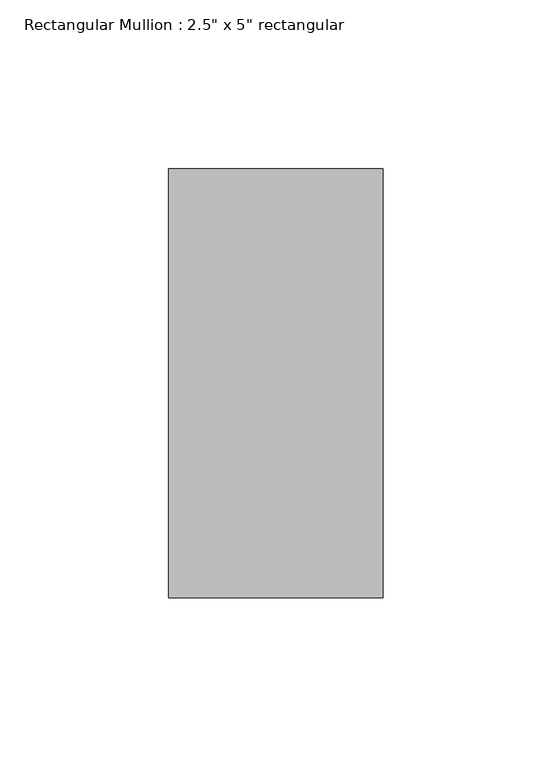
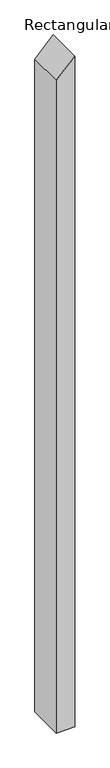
"""IFC4 building model written with IfcOpenShell, lengths in millimetres: member geometry."""

from ifc_helpers import new_model, si_unit, frame, origin, place, context, project, spatial, polyline, outline, extrude, source, transform, mapped, element, save


def member_9536ee80(model_context):
    return source(origin(), model_context, "Body", "SweptSolid", [
        extrude(outline(polyline([(0.0, 0.0), (-66.2000491, -63.5), (-2440.5143955, -63.5), (-2440.5143955, 0.0), (0.0, 0.0)])), frame((0.0, -63.5, 0.0), z_axis=(0.0, 1.0, 0.0), x_axis=(0.0, 0.0, 1.0)), (0.0, 0.0, 1.0), 127.0),
    ])


if __name__ == "__main__":
    model = new_model("IFC4")
    model_context = context("Model", 3, world=origin())
    ifc_project = project(units=[si_unit("LENGTHUNIT", "METRE", prefix="MILLI")], contexts=[model_context])
    site = spatial("IfcSite", under=ifc_project)
    building = spatial("IfcBuilding", under=site)
    placement = place(None, origin())
    member_shape = member_9536ee80(model_context)
    element("IfcMember", 1, ObjectType="Rectangular Mullion : 2.5\" x 5\" rectangular", at=placement, inside=building, context=model_context, shape_type="MappedRepresentation", body=[
        mapped(member_shape, transform((0.0, 0.0, 0.0), x_axis=(1.0, 0.0, 0.0), y_axis=(0.0, 1.0, 0.0), z_axis=(0.0, 0.0, 1.0))),
    ])
    save(model, "model.ifc")
